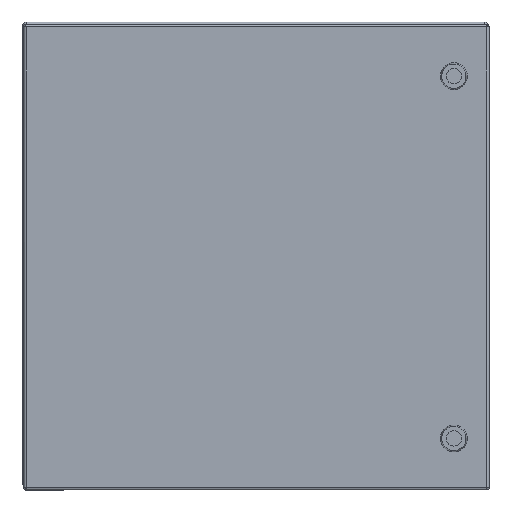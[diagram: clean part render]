
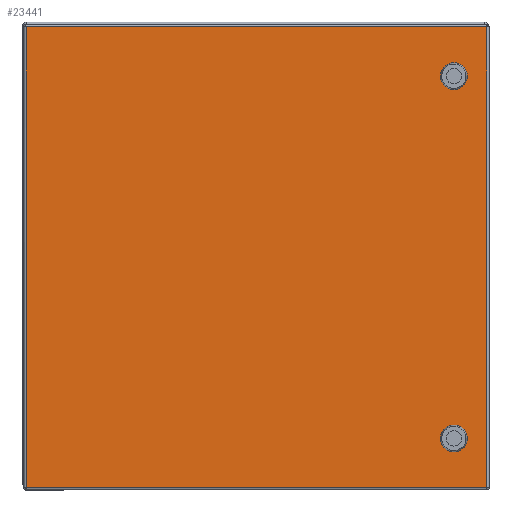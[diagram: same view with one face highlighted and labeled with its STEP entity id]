
A CAD part, top view. The second image highlights one B-rep face of the part: STEP entity #23441.
In plain terms, the highlighted planar face has unit normal (0, 0, 1).
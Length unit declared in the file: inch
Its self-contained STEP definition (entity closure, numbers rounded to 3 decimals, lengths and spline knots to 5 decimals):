
#226 = EDGE_LOOP ( 'NONE', ( #10148, #8245, #11788, #4140, #9373 ) ) ;
#353 = LINE ( 'NONE', #32444, #14999 ) ;
#596 = EDGE_CURVE ( 'NONE', #20989, #4434, #25892, .T. ) ;
#1134 = ORIENTED_EDGE ( 'NONE', *, *, #35479, .F. ) ;
#1190 = EDGE_CURVE ( 'NONE', #29089, #25852, #20360, .T. ) ;
#1211 = ORIENTED_EDGE ( 'NONE', *, *, #19835, .T. ) ;
#1413 = EDGE_CURVE ( 'NONE', #11887, #32434, #29469, .T. ) ;
#2133 = EDGE_LOOP ( 'NONE', ( #1211, #22746, #6575, #36208 ) ) ;
#2353 = DIRECTION ( 'NONE',  ( 1., 0., 0. ) ) ;
#2637 = DIRECTION ( 'NONE',  ( 1., 0., 0. ) ) ;
#2792 = CARTESIAN_POINT ( 'NONE',  ( 6.25207, 5.44972, 0. ) ) ;
#2839 = AXIS2_PLACEMENT_3D ( 'NONE', #23536, #6011, #26468 ) ;
#3276 = CARTESIAN_POINT ( 'NONE',  ( 6.10519, 5.18472, 0. ) ) ;
#3708 = ORIENTED_EDGE ( 'NONE', *, *, #22933, .F. ) ;
#4140 = ORIENTED_EDGE ( 'NONE', *, *, #20145, .T. ) ;
#4319 = VERTEX_POINT ( 'NONE', #13807 ) ;
#4423 = LINE ( 'NONE', #36163, #19051 ) ;
#4434 = VERTEX_POINT ( 'NONE', #26073 ) ;
#4706 = EDGE_LOOP ( 'NONE', ( #1134, #6516, #3708, #20188, #22719 ) ) ;
#4966 = CIRCLE ( 'NONE', #2839, 0.3125 ) ;
#5198 = CARTESIAN_POINT ( 'NONE',  ( 6.10519, 5.71472, 0. ) ) ;
#5503 = CARTESIAN_POINT ( 'NONE',  ( -6.93996, -6.93208, 0. ) ) ;
#5789 = CARTESIAN_POINT ( 'NONE',  ( -6.93223, 6.93965, 0. ) ) ;
#5940 = DIRECTION ( 'NONE',  ( 0., 0., -1. ) ) ;
#5953 = EDGE_CURVE ( 'NONE', #4319, #29012, #353, .T. ) ;
#5975 = DIRECTION ( 'NONE',  ( 0., 0., 1. ) ) ;
#5994 = DIRECTION ( 'NONE',  ( 1., 0., 0. ) ) ;
#6011 = DIRECTION ( 'NONE',  ( 0., 0., 1. ) ) ;
#6132 = CARTESIAN_POINT ( 'NONE',  ( 5.77394, 5.71472, 0. ) ) ;
#6399 = EDGE_CURVE ( 'NONE', #30611, #35658, #4423, .T. ) ;
#6516 = ORIENTED_EDGE ( 'NONE', *, *, #5953, .F. ) ;
#6575 = ORIENTED_EDGE ( 'NONE', *, *, #6399, .T. ) ;
#6611 = FACE_BOUND ( 'NONE', #226, .T. ) ;
#7349 = DIRECTION ( 'NONE',  ( 0., 0., -1. ) ) ;
#8045 = VERTEX_POINT ( 'NONE', #9742 ) ;
#8245 = ORIENTED_EDGE ( 'NONE', *, *, #36323, .T. ) ;
#8713 = CARTESIAN_POINT ( 'NONE',  ( 6.10519, -5.71472, 0. ) ) ;
#9373 = ORIENTED_EDGE ( 'NONE', *, *, #596, .T. ) ;
#9742 = CARTESIAN_POINT ( 'NONE',  ( -6.93223, 6.93192, 0. ) ) ;
#10148 = ORIENTED_EDGE ( 'NONE', *, *, #14878, .T. ) ;
#10452 = VECTOR ( 'NONE', #24931, 39.37008 ) ;
#10937 = DIRECTION ( 'NONE',  ( 1., 0., 0. ) ) ;
#11057 = PLANE ( 'NONE',  #30499 ) ;
#11662 = VERTEX_POINT ( 'NONE', #26475 ) ;
#11788 = ORIENTED_EDGE ( 'NONE', *, *, #1190, .T. ) ;
#11887 = VERTEX_POINT ( 'NONE', #18654 ) ;
#12199 = VECTOR ( 'NONE', #10937, 39.37008 ) ;
#12453 = CARTESIAN_POINT ( 'NONE',  ( 6.25207, -5.44972, 0. ) ) ;
#13750 = DIRECTION ( 'NONE',  ( -1., 0., 0. ) ) ;
#13807 = CARTESIAN_POINT ( 'NONE',  ( 5.77394, 5.18472, 0. ) ) ;
#14283 = CARTESIAN_POINT ( 'NONE',  ( 5.77394, -5.71472, 0. ) ) ;
#14413 = FACE_OUTER_BOUND ( 'NONE', #2133, .T. ) ;
#14878 = EDGE_CURVE ( 'NONE', #4434, #29238, #35478, .T. ) ;
#14999 = VECTOR ( 'NONE', #23685, 39.37008 ) ;
#15752 = DIRECTION ( 'NONE',  ( 0., 1., 0. ) ) ;
#15915 = EDGE_CURVE ( 'NONE', #35992, #11887, #21248, .T. ) ;
#16103 = CARTESIAN_POINT ( 'NONE',  ( 6.10519, -5.71472, 0. ) ) ;
#16346 = CARTESIAN_POINT ( 'NONE',  ( 5.93957, 5.44972, 0. ) ) ;
#16429 = CARTESIAN_POINT ( 'NONE',  ( 6.93949, 6.93192, 0. ) ) ;
#16968 = DIRECTION ( 'NONE',  ( -1., 0., 0. ) ) ;
#17643 = CARTESIAN_POINT ( 'NONE',  ( 6.93177, -6.93208, 0. ) ) ;
#18239 = LINE ( 'NONE', #16103, #10452 ) ;
#18654 = CARTESIAN_POINT ( 'NONE',  ( 6.10519, 5.71472, 0. ) ) ;
#19051 = VECTOR ( 'NONE', #15752, 39.37008 ) ;
#19294 = DIRECTION ( 'NONE',  ( 1., 0., 0. ) ) ;
#19835 = EDGE_CURVE ( 'NONE', #8045, #11662, #29225, .T. ) ;
#19858 = DIRECTION ( 'NONE',  ( 0., 0., 1. ) ) ;
#20139 = DIRECTION ( 'NONE',  ( 0., 0., -1. ) ) ;
#20145 = EDGE_CURVE ( 'NONE', #25852, #20989, #18239, .T. ) ;
#20188 = ORIENTED_EDGE ( 'NONE', *, *, #1413, .F. ) ;
#20360 = CIRCLE ( 'NONE', #25529, 0.3125 ) ;
#20488 = DIRECTION ( 'NONE',  ( 0., -1., 0. ) ) ;
#20747 = VECTOR ( 'NONE', #25951, 39.37008 ) ;
#20989 = VERTEX_POINT ( 'NONE', #14283 ) ;
#21248 = CIRCLE ( 'NONE', #36475, 0.3125 ) ;
#22238 = AXIS2_PLACEMENT_3D ( 'NONE', #23493, #5975, #26420 ) ;
#22719 = ORIENTED_EDGE ( 'NONE', *, *, #15915, .F. ) ;
#22746 = ORIENTED_EDGE ( 'NONE', *, *, #23991, .T. ) ;
#22933 = EDGE_CURVE ( 'NONE', #32434, #4319, #25862, .T. ) ;
#23392 = LINE ( 'NONE', #16429, #31088 ) ;
#23441 = ADVANCED_FACE ( 'NONE', ( #37695, #14413, #6611 ), #11057, .T. ) ;
#23464 = CARTESIAN_POINT ( 'NONE',  ( 5.93957, -5.44972, 0. ) ) ;
#23493 = CARTESIAN_POINT ( 'NONE',  ( 5.93957, 5.44972, 0. ) ) ;
#23536 = CARTESIAN_POINT ( 'NONE',  ( 5.93957, 5.44972, 0. ) ) ;
#23685 = DIRECTION ( 'NONE',  ( 1., 0., 0. ) ) ;
#23991 = EDGE_CURVE ( 'NONE', #11662, #30611, #27586, .T. ) ;
#24158 = AXIS2_PLACEMENT_3D ( 'NONE', #24858, #7349, #27787 ) ;
#24536 = AXIS2_PLACEMENT_3D ( 'NONE', #23464, #5940, #5994 ) ;
#24695 = CARTESIAN_POINT ( 'NONE',  ( 6.10519, -5.18472, 0. ) ) ;
#24858 = CARTESIAN_POINT ( 'NONE',  ( 5.93957, -5.44972, 0. ) ) ;
#24931 = DIRECTION ( 'NONE',  ( -1., 0., 0. ) ) ;
#25529 = AXIS2_PLACEMENT_3D ( 'NONE', #37611, #20139, #2637 ) ;
#25852 = VERTEX_POINT ( 'NONE', #8713 ) ;
#25862 = CIRCLE ( 'NONE', #22238, 0.3125 ) ;
#25892 = CIRCLE ( 'NONE', #24536, 0.3125 ) ;
#25951 = DIRECTION ( 'NONE',  ( 1., 0., 0. ) ) ;
#26073 = CARTESIAN_POINT ( 'NONE',  ( 5.77394, -5.18472, 0. ) ) ;
#26420 = DIRECTION ( 'NONE',  ( 1., 0., 0. ) ) ;
#26468 = DIRECTION ( 'NONE',  ( 1., 0., 0. ) ) ;
#26475 = CARTESIAN_POINT ( 'NONE',  ( -6.93223, -6.93208, 0. ) ) ;
#27391 = VECTOR ( 'NONE', #20488, 39.37008 ) ;
#27586 = LINE ( 'NONE', #5503, #20747 ) ;
#27787 = DIRECTION ( 'NONE',  ( 1., 0., 0. ) ) ;
#28574 = VECTOR ( 'NONE', #16968, 39.37008 ) ;
#28739 = EDGE_CURVE ( 'NONE', #35658, #8045, #23392, .T. ) ;
#29012 = VERTEX_POINT ( 'NONE', #3276 ) ;
#29089 = VERTEX_POINT ( 'NONE', #12453 ) ;
#29225 = LINE ( 'NONE', #5789, #27391 ) ;
#29238 = VERTEX_POINT ( 'NONE', #24695 ) ;
#29469 = LINE ( 'NONE', #5198, #28574 ) ;
#30499 = AXIS2_PLACEMENT_3D ( 'NONE', #37334, #19858, #2353 ) ;
#30611 = VERTEX_POINT ( 'NONE', #17643 ) ;
#30696 = CIRCLE ( 'NONE', #24158, 0.3125 ) ;
#31088 = VECTOR ( 'NONE', #13750, 39.37008 ) ;
#32434 = VERTEX_POINT ( 'NONE', #6132 ) ;
#32444 = CARTESIAN_POINT ( 'NONE',  ( 6.10519, 5.18472, 0. ) ) ;
#34292 = CARTESIAN_POINT ( 'NONE',  ( 6.10519, -5.18472, 0. ) ) ;
#35478 = LINE ( 'NONE', #34292, #12199 ) ;
#35479 = EDGE_CURVE ( 'NONE', #29012, #35992, #4966, .T. ) ;
#35658 = VERTEX_POINT ( 'NONE', #35998 ) ;
#35992 = VERTEX_POINT ( 'NONE', #2792 ) ;
#35998 = CARTESIAN_POINT ( 'NONE',  ( 6.93177, 6.93192, 0. ) ) ;
#36163 = CARTESIAN_POINT ( 'NONE',  ( 6.93177, -6.9398, 0. ) ) ;
#36208 = ORIENTED_EDGE ( 'NONE', *, *, #28739, .T. ) ;
#36323 = EDGE_CURVE ( 'NONE', #29238, #29089, #30696, .T. ) ;
#36475 = AXIS2_PLACEMENT_3D ( 'NONE', #16346, #36761, #19294 ) ;
#36761 = DIRECTION ( 'NONE',  ( 0., 0., 1. ) ) ;
#37334 = CARTESIAN_POINT ( 'NONE',  ( 0., 0., 0. ) ) ;
#37611 = CARTESIAN_POINT ( 'NONE',  ( 5.93957, -5.44972, 0. ) ) ;
#37695 = FACE_BOUND ( 'NONE', #4706, .T. ) ;
